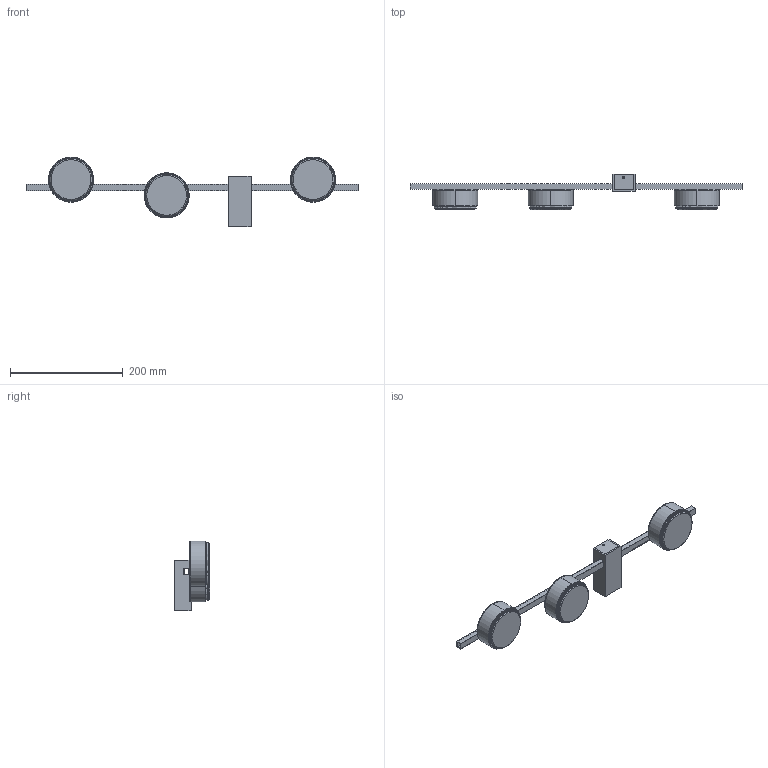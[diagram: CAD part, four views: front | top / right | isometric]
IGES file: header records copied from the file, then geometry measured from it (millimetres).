
Start section: SolidWorks IGES file using analytic representation for surfaces
Global section: file name: Z:\Modele 3D_WWW\_KOLEKCJE_WWW\PILLS\PILLS-III-8263-8268\PILLS-III-8263-8268.IGS; native system: SolidWorks 2021; preprocessor: SolidWorks 2021; author: gabriela.tworek; date: 210528.120404; units: millimetre
Bounding box: 590 x 63.09 x 123.95 mm (x, y, z)
Surface area: 206836.4 mm2 (no closed solid volume)
Topology: 0 solids, 0 shells, 3829 faces, 28355 edges, 28355 vertices
Faces by surface type: bspline 2269, revolution 1560
